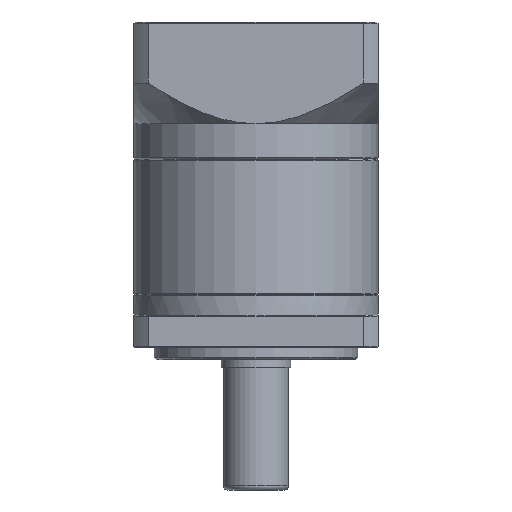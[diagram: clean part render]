
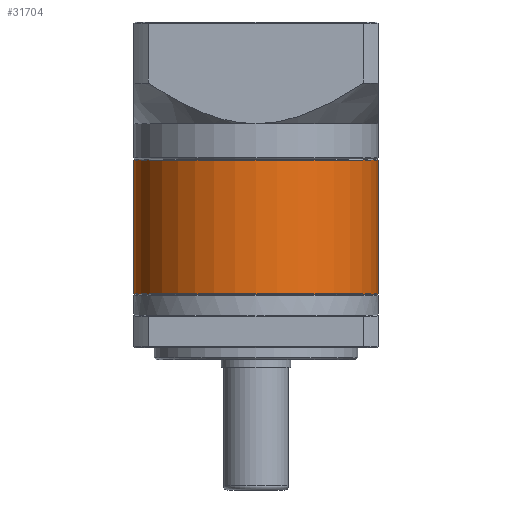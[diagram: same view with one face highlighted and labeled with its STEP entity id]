
A CAD part, front view. The second image highlights one B-rep face of the part: STEP entity #31704.
In plain terms, the highlighted cylindrical face has radius 30 mm (diameter 60 mm), a partial arc.
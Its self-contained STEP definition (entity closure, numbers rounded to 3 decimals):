
#1953 = CIRCLE ( 'NONE', #3342, 30. ) ;
#2145 = EDGE_CURVE ( 'NONE', #84907, #15265, #30312, .T. ) ;
#3319 = CYLINDRICAL_SURFACE ( 'NONE', #96727, 30. ) ;
#3342 = AXIS2_PLACEMENT_3D ( 'NONE', #23689, #46739, #79229 ) ;
#5390 = CARTESIAN_POINT ( 'NONE',  ( -27.925, 22.909, -17.037 ) ) ;
#12244 = VECTOR ( 'NONE', #26188, 1000. ) ;
#12260 = EDGE_CURVE ( 'NONE', #84907, #73793, #1953, .T. ) ;
#15265 = VERTEX_POINT ( 'NONE', #15668 ) ;
#15668 = CARTESIAN_POINT ( 'NONE',  ( -27.925, 22.909, -50.087 ) ) ;
#19083 = VECTOR ( 'NONE', #78327, 1000. ) ;
#23689 = CARTESIAN_POINT ( 'NONE',  ( -57.925, 22.909, -17.287 ) ) ;
#26188 = DIRECTION ( 'NONE',  ( 0., 0., -1. ) ) ;
#30312 = LINE ( 'NONE', #5390, #19083 ) ;
#31704 = ADVANCED_FACE ( 'NONE', ( #82035 ), #3319, .T. ) ;
#34077 = ORIENTED_EDGE ( 'NONE', *, *, #48417, .T. ) ;
#40712 = CARTESIAN_POINT ( 'NONE',  ( -57.925, 22.909, -50.087 ) ) ;
#41538 = ORIENTED_EDGE ( 'NONE', *, *, #12260, .T. ) ;
#43690 = ORIENTED_EDGE ( 'NONE', *, *, #98309, .T. ) ;
#46739 = DIRECTION ( 'NONE',  ( 0., 0., -1. ) ) ;
#48043 = DIRECTION ( 'NONE',  ( 0., 0., 1. ) ) ;
#48417 = EDGE_CURVE ( 'NONE', #73793, #92167, #57165, .T. ) ;
#49113 = DIRECTION ( 'NONE',  ( 1., 0., 0. ) ) ;
#57165 = LINE ( 'NONE', #65607, #12244 ) ;
#59039 = CARTESIAN_POINT ( 'NONE',  ( -57.925, 22.909, -17.037 ) ) ;
#65607 = CARTESIAN_POINT ( 'NONE',  ( -87.925, 22.909, -17.037 ) ) ;
#65879 = CARTESIAN_POINT ( 'NONE',  ( -27.925, 22.909, -17.287 ) ) ;
#66381 = DIRECTION ( 'NONE',  ( 0., 0., -1. ) ) ;
#66781 = AXIS2_PLACEMENT_3D ( 'NONE', #40712, #48043, #49113 ) ;
#70178 = CARTESIAN_POINT ( 'NONE',  ( -87.925, 22.909, -17.287 ) ) ;
#73793 = VERTEX_POINT ( 'NONE', #70178 ) ;
#75818 = DIRECTION ( 'NONE',  ( -1., 0., 0. ) ) ;
#78327 = DIRECTION ( 'NONE',  ( 0., 0., -1. ) ) ;
#79229 = DIRECTION ( 'NONE',  ( 1., 0., 0. ) ) ;
#82035 = FACE_OUTER_BOUND ( 'NONE', #84070, .T. ) ;
#84070 = EDGE_LOOP ( 'NONE', ( #101498, #41538, #34077, #43690 ) ) ;
#84907 = VERTEX_POINT ( 'NONE', #65879 ) ;
#87497 = CIRCLE ( 'NONE', #66781, 30. ) ;
#92167 = VERTEX_POINT ( 'NONE', #95220 ) ;
#95220 = CARTESIAN_POINT ( 'NONE',  ( -87.925, 22.909, -50.087 ) ) ;
#96727 = AXIS2_PLACEMENT_3D ( 'NONE', #59039, #66381, #75818 ) ;
#98309 = EDGE_CURVE ( 'NONE', #92167, #15265, #87497, .T. ) ;
#101498 = ORIENTED_EDGE ( 'NONE', *, *, #2145, .F. ) ;
